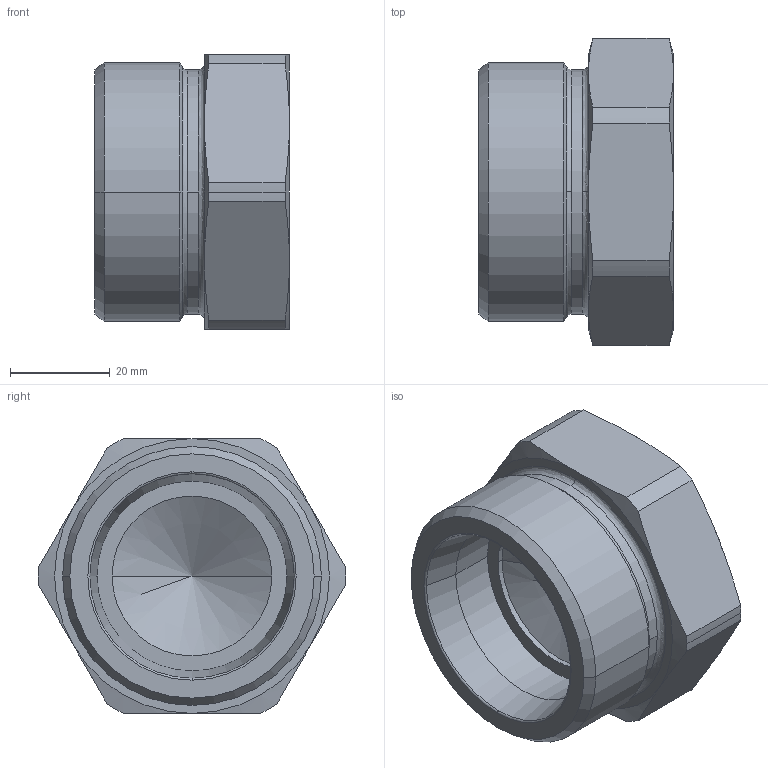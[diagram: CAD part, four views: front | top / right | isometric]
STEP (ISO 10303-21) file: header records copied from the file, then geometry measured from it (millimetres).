
FILE_DESCRIPTION((''),'2;1');
FILE_NAME('108023.stp','2007-10-31T16:28:50',(''),(''),'AutoCAD STEP 2000i','AutoCAD 2000i',', , ');
FILE_SCHEMA(('CONFIG_CONTROL_DESIGN'));
Length unit declared in the file: millimetre
Products named in the file (2): 108023.0; CHIAVE SMUSSATA#0
Assembly tree (1 placements, depth 2):
  108023.0
    CHIAVE SMUSSATA#0
Bounding box: 39 x 61.5 x 55 mm (x, y, z)
Volume: 67029.8 mm3; surface area: 13937.1 mm2
Topology: 1 solids, 1 shells, 52 faces, 126 edges, 77 vertices
Faces by surface type: cone 20, cylinder 16, plane 10, bspline 4, torus 2
Entity records: 1767 total; most frequent: CARTESIAN_POINT 479, DIRECTION 270, ORIENTED_EDGE 248, EDGE_CURVE 124, AXIS2_PLACEMENT_3D 120, VERTEX_POINT 77, CIRCLE 70, EDGE_LOOP 55
